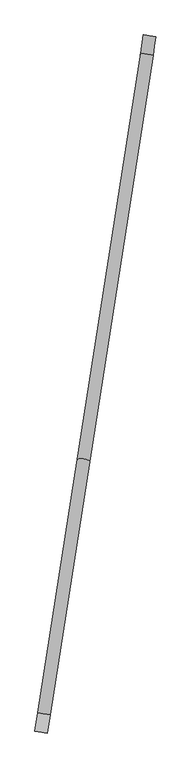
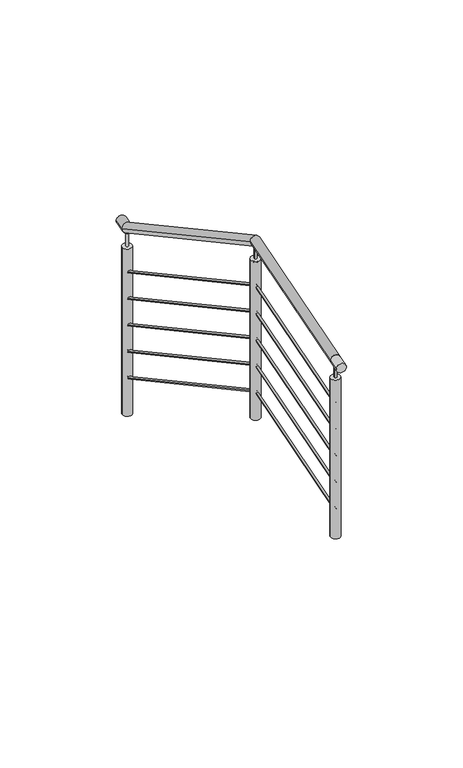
"""IFC4 building model written with IfcOpenShell, lengths in millimetres: railing geometry, Barandal acero inox - escalera."""

from ifc_helpers import new_model, si_unit, point, frame, frame_2d, origin, place, context, project, spatial, circle_curve, ellipse_curve, trimmed, segment, composite_curve, outline, extrude, source, transform, mapped, element, save
from ifc_brep_helpers import plane_surface, cylinder_surface, advanced_brep


def railing_caa17b47(model_context):
    return source(origin(), model_context, "Body", "SolidModel", [
        advanced_brep(
        [(-33315.3616615, -69036.3572511, 2260.5263158), (-33365.5555823, -69028.5335492, 2260.5263158), (-33206.9925709, -68011.2530626, 2260.5263158), (-33156.7986501, -68019.0767645, 2260.5263158), (-32901.9435111, -66384.0222992, 1254.4335573), (-32952.1374319, -66376.1985973, 1254.4335573)],
        [
            (0, 1, circle_curve(frame((-33340.4586219, -69032.4454002, 2260.5263158), z_axis=(-0.15400987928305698, -0.9880693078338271, 0.0), x_axis=(-0.9880693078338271, 0.15400987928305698, 0.0)), 25.4)),
            (1, 0, circle_curve(frame((-33340.4586219, -69032.4454002, 2260.5263158), z_axis=(-0.15400987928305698, -0.9880693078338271, 0.0), x_axis=(-0.9880693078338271, 0.15400987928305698, 0.0)), 25.4)),
            (2, 3, ellipse_curve(frame((-33181.8956105, -68015.1649136, 2260.5263158), z_axis=(-0.14830071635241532, -0.9514414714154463, 0.26975178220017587), x_axis=(0.0415444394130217, 0.2665334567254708, 0.9629298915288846)), 26.377829, 25.4)),
            (3, 0),
            (1, 2),
            (3, 2, ellipse_curve(frame((-33181.8956105, -68015.1649136, 2260.5263158), z_axis=(-0.14830071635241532, -0.9514414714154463, 0.26975178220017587), x_axis=(0.0415444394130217, 0.2665334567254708, 0.9629298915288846)), 26.377829, 25.4)),
            (4, 5, ellipse_curve(frame((-32927.0404715, -66380.1104482, 1254.4335573), z_axis=(0.15400987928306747, 0.9880693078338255, 0.0), x_axis=(0.0, 0.0, -1.0)), 29.7261002, 25.4)),
            (5, 4, ellipse_curve(frame((-32927.0404715, -66380.1104482, 1254.4335573), z_axis=(0.15400987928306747, 0.9880693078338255, 0.0), x_axis=(0.0, 0.0, -1.0)), 29.7261002, 25.4)),
            (4, 3),
            (2, 5),
        ],
        [
            plane_surface(frame((-33340.4586219, -69032.4454002, 2260.5263158), z_axis=(-0.15400987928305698, -0.9880693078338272, 0.0), x_axis=(0.9880693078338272, -0.15400987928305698, 0.0))),
            cylinder_surface(frame((-33181.8956105, -68015.1649136, 2260.5263158), z_axis=(0.15400987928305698, 0.9880693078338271, 0.0), x_axis=(-0.9880693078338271, 0.15400987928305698, 0.0)), 25.4),
            plane_surface(frame((-32927.0404715, -66380.1104482, 1254.4335573), z_axis=(0.15400987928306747, 0.9880693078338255, 0.0), x_axis=(0.9880693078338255, -0.15400987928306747, 0.0))),
            cylinder_surface(frame((-32927.0404715, -66380.1104482, 1254.4335573), z_axis=(0.13159650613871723, 0.8442735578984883, -0.5195041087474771), x_axis=(-0.9880693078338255, 0.1540098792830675, 0.0)), 25.4),
        ],
        [
            (0, [[1, 2]]),
            (1, [[3, 4, -2, 5]]),
            (1, [[6, -5, -1, -4]]),
            (2, [[7, 8]]),
            (3, [[-7, 9, -3, 10]]),
            (3, [[-8, -10, -6, -9]]),
        ],
    ),
        advanced_brep(
        [(-33334.1843818, -69033.4233629, 2010.5263158), (-33346.732862, -69031.4674374, 2010.5263158), (-33188.1698506, -68014.1869508, 2010.5263158), (-33175.6213704, -68016.1428763, 2010.5263158), (-32920.7662314, -66381.088411, 1004.4335573), (-32933.3147116, -66379.1324855, 1004.4335573)],
        [
            (0, 1, circle_curve(frame((-33340.4586219, -69032.4454002, 2010.5263158), z_axis=(-0.15400987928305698, -0.9880693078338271, 0.0), x_axis=(-0.9880693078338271, 0.15400987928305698, 0.0)), 6.35)),
            (1, 0, circle_curve(frame((-33340.4586219, -69032.4454002, 2010.5263158), z_axis=(-0.15400987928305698, -0.9880693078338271, 0.0), x_axis=(-0.9880693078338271, 0.15400987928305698, 0.0)), 6.35)),
            (2, 3, ellipse_curve(frame((-33181.8956105, -68015.1649136, 2010.5263158), z_axis=(-0.14830071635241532, -0.9514414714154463, 0.26975178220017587), x_axis=(0.0415444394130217, 0.2665334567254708, 0.9629298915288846)), 6.5944572, 6.35)),
            (3, 0),
            (1, 2),
            (3, 2, ellipse_curve(frame((-33181.8956105, -68015.1649136, 2010.5263158), z_axis=(-0.14830071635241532, -0.9514414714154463, 0.26975178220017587), x_axis=(0.0415444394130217, 0.2665334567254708, 0.9629298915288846)), 6.5944572, 6.35)),
            (4, 5, ellipse_curve(frame((-32927.0404715, -66380.1104482, 1004.4335573), z_axis=(0.15400987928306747, 0.9880693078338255, 0.0), x_axis=(0.0, 0.0, -1.0)), 7.4315251, 6.35)),
            (5, 4, ellipse_curve(frame((-32927.0404715, -66380.1104482, 1004.4335573), z_axis=(0.15400987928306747, 0.9880693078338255, 0.0), x_axis=(0.0, 0.0, -1.0)), 7.4315251, 6.35)),
            (4, 3),
            (2, 5),
        ],
        [
            plane_surface(frame((-33340.4586219, -69032.4454002, 2010.5263158), z_axis=(-0.15400987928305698, -0.9880693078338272, 0.0), x_axis=(0.9880693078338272, -0.15400987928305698, 0.0))),
            cylinder_surface(frame((-33181.8956105, -68015.1649136, 2010.5263158), z_axis=(0.15400987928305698, 0.9880693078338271, 0.0), x_axis=(-0.9880693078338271, 0.15400987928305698, 0.0)), 6.35),
            plane_surface(frame((-32927.0404715, -66380.1104482, 1004.4335573), z_axis=(0.15400987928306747, 0.9880693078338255, 0.0), x_axis=(0.9880693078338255, -0.15400987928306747, 0.0))),
            cylinder_surface(frame((-32927.0404715, -66380.1104482, 1004.4335573), z_axis=(0.13159650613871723, 0.8442735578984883, -0.5195041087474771), x_axis=(-0.9880693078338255, 0.1540098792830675, 0.0)), 6.35),
        ],
        [
            (0, [[1, 2]]),
            (1, [[3, 4, -2, 5]]),
            (1, [[6, -5, -1, -4]]),
            (2, [[7, 8]]),
            (3, [[-7, 9, -3, 10]]),
            (3, [[-8, -10, -6, -9]]),
        ],
    ),
        advanced_brep(
        [(-33334.1843818, -69033.4233629, 1860.5263158), (-33346.732862, -69031.4674374, 1860.5263158), (-33188.1698506, -68014.1869508, 1860.5263158), (-33175.6213704, -68016.1428763, 1860.5263158), (-32920.7662314, -66381.088411, 854.4335573), (-32933.3147116, -66379.1324855, 854.4335573)],
        [
            (0, 1, circle_curve(frame((-33340.4586219, -69032.4454002, 1860.5263158), z_axis=(-0.15400987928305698, -0.9880693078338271, 0.0), x_axis=(-0.9880693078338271, 0.15400987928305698, 0.0)), 6.35)),
            (1, 0, circle_curve(frame((-33340.4586219, -69032.4454002, 1860.5263158), z_axis=(-0.15400987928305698, -0.9880693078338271, 0.0), x_axis=(-0.9880693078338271, 0.15400987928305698, 0.0)), 6.35)),
            (2, 3, ellipse_curve(frame((-33181.8956105, -68015.1649136, 1860.5263158), z_axis=(-0.14830071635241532, -0.9514414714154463, 0.26975178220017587), x_axis=(0.0415444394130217, 0.2665334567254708, 0.9629298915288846)), 6.5944572, 6.35)),
            (3, 0),
            (1, 2),
            (3, 2, ellipse_curve(frame((-33181.8956105, -68015.1649136, 1860.5263158), z_axis=(-0.14830071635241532, -0.9514414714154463, 0.26975178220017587), x_axis=(0.0415444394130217, 0.2665334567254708, 0.9629298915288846)), 6.5944572, 6.35)),
            (4, 5, ellipse_curve(frame((-32927.0404715, -66380.1104482, 854.4335573), z_axis=(0.15400987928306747, 0.9880693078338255, 0.0), x_axis=(0.0, 0.0, -1.0)), 7.4315251, 6.35)),
            (5, 4, ellipse_curve(frame((-32927.0404715, -66380.1104482, 854.4335573), z_axis=(0.15400987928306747, 0.9880693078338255, 0.0), x_axis=(0.0, 0.0, -1.0)), 7.4315251, 6.35)),
            (4, 3),
            (2, 5),
        ],
        [
            plane_surface(frame((-33340.4586219, -69032.4454002, 1860.5263158), z_axis=(-0.15400987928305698, -0.9880693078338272, 0.0), x_axis=(0.9880693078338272, -0.15400987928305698, 0.0))),
            cylinder_surface(frame((-33181.8956105, -68015.1649136, 1860.5263158), z_axis=(0.15400987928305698, 0.9880693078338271, 0.0), x_axis=(-0.9880693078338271, 0.15400987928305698, 0.0)), 6.35),
            plane_surface(frame((-32927.0404715, -66380.1104482, 854.4335573), z_axis=(0.15400987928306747, 0.9880693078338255, 0.0), x_axis=(0.9880693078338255, -0.15400987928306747, 0.0))),
            cylinder_surface(frame((-32927.0404715, -66380.1104482, 854.4335573), z_axis=(0.13159650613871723, 0.8442735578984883, -0.5195041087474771), x_axis=(-0.9880693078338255, 0.1540098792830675, 0.0)), 6.35),
        ],
        [
            (0, [[1, 2]]),
            (1, [[3, 4, -2, 5]]),
            (1, [[6, -5, -1, -4]]),
            (2, [[7, 8]]),
            (3, [[-7, 9, -3, 10]]),
            (3, [[-8, -10, -6, -9]]),
        ],
    ),
        advanced_brep(
        [(-33334.1843818, -69033.4233629, 1710.5263158), (-33346.732862, -69031.4674374, 1710.5263158), (-33188.1698506, -68014.1869508, 1710.5263158), (-33175.6213704, -68016.1428763, 1710.5263158), (-32920.7662314, -66381.088411, 704.4335573), (-32933.3147116, -66379.1324855, 704.4335573)],
        [
            (0, 1, circle_curve(frame((-33340.4586219, -69032.4454002, 1710.5263158), z_axis=(-0.154009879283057, -0.9880693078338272, 0.0), x_axis=(-0.9880693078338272, 0.154009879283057, 0.0)), 6.35)),
            (1, 0, circle_curve(frame((-33340.4586219, -69032.4454002, 1710.5263158), z_axis=(-0.154009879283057, -0.9880693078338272, 0.0), x_axis=(-0.9880693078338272, 0.154009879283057, 0.0)), 6.35)),
            (2, 3, ellipse_curve(frame((-33181.8956105, -68015.1649136, 1710.5263158), z_axis=(-0.14830071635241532, -0.9514414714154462, 0.26975178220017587), x_axis=(0.041544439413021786, 0.26653345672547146, 0.9629298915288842)), 6.5944572, 6.35)),
            (3, 0),
            (1, 2),
            (3, 2, ellipse_curve(frame((-33181.8956105, -68015.1649136, 1710.5263158), z_axis=(-0.14830071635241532, -0.9514414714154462, 0.26975178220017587), x_axis=(0.041544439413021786, 0.26653345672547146, 0.9629298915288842)), 6.5944572, 6.35)),
            (4, 5, ellipse_curve(frame((-32927.0404715, -66380.1104482, 704.4335573), z_axis=(0.1540098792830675, 0.9880693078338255, 0.0), x_axis=(0.0, 0.0, -1.0)), 7.4315251, 6.35)),
            (5, 4, ellipse_curve(frame((-32927.0404715, -66380.1104482, 704.4335573), z_axis=(0.1540098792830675, 0.9880693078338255, 0.0), x_axis=(0.0, 0.0, -1.0)), 7.4315251, 6.35)),
            (4, 3),
            (2, 5),
        ],
        [
            plane_surface(frame((-33340.4586219, -69032.4454002, 1710.5263158), z_axis=(-0.15400987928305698, -0.9880693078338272, 0.0), x_axis=(0.9880693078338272, -0.15400987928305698, 0.0))),
            cylinder_surface(frame((-33181.8956105, -68015.1649136, 1710.5263158), z_axis=(0.154009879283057, 0.9880693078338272, 0.0), x_axis=(-0.9880693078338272, 0.154009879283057, 0.0)), 6.35),
            plane_surface(frame((-32927.0404715, -66380.1104482, 704.4335573), z_axis=(0.1540098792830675, 0.9880693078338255, 0.0), x_axis=(0.9880693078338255, -0.1540098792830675, 0.0))),
            cylinder_surface(frame((-32927.0404715, -66380.1104482, 704.4335573), z_axis=(0.13159650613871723, 0.8442735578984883, -0.5195041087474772), x_axis=(-0.9880693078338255, 0.1540098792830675, 0.0)), 6.35),
        ],
        [
            (0, [[1, 2]]),
            (1, [[3, 4, -2, 5]]),
            (1, [[6, -5, -1, -4]]),
            (2, [[7, 8]]),
            (3, [[-7, 9, -3, 10]]),
            (3, [[-8, -10, -6, -9]]),
        ],
    ),
        advanced_brep(
        [(-33334.1843818, -69033.4233629, 1560.5263158), (-33346.732862, -69031.4674374, 1560.5263158), (-33188.1698506, -68014.1869508, 1560.5263158), (-33175.6213704, -68016.1428763, 1560.5263158), (-32920.7662314, -66381.088411, 554.4335573), (-32933.3147116, -66379.1324855, 554.4335573)],
        [
            (0, 1, circle_curve(frame((-33340.4586219, -69032.4454002, 1560.5263158), z_axis=(-0.154009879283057, -0.9880693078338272, 0.0), x_axis=(-0.9880693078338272, 0.154009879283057, 0.0)), 6.35)),
            (1, 0, circle_curve(frame((-33340.4586219, -69032.4454002, 1560.5263158), z_axis=(-0.154009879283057, -0.9880693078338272, 0.0), x_axis=(-0.9880693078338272, 0.154009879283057, 0.0)), 6.35)),
            (2, 3, ellipse_curve(frame((-33181.8956105, -68015.1649136, 1560.5263158), z_axis=(-0.14830071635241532, -0.9514414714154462, 0.26975178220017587), x_axis=(0.041544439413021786, 0.26653345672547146, 0.9629298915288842)), 6.5944572, 6.35)),
            (3, 0),
            (1, 2),
            (3, 2, ellipse_curve(frame((-33181.8956105, -68015.1649136, 1560.5263158), z_axis=(-0.14830071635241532, -0.9514414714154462, 0.26975178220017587), x_axis=(0.041544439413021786, 0.26653345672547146, 0.9629298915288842)), 6.5944572, 6.35)),
            (4, 5, ellipse_curve(frame((-32927.0404715, -66380.1104482, 554.4335573), z_axis=(0.1540098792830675, 0.9880693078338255, 0.0), x_axis=(0.0, 0.0, -1.0)), 7.4315251, 6.35)),
            (5, 4, ellipse_curve(frame((-32927.0404715, -66380.1104482, 554.4335573), z_axis=(0.1540098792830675, 0.9880693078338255, 0.0), x_axis=(0.0, 0.0, -1.0)), 7.4315251, 6.35)),
            (4, 3),
            (2, 5),
        ],
        [
            plane_surface(frame((-33340.4586219, -69032.4454002, 1560.5263158), z_axis=(-0.15400987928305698, -0.9880693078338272, 0.0), x_axis=(0.9880693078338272, -0.15400987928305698, 0.0))),
            cylinder_surface(frame((-33181.8956105, -68015.1649136, 1560.5263158), z_axis=(0.154009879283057, 0.9880693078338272, 0.0), x_axis=(-0.9880693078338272, 0.154009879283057, 0.0)), 6.35),
            plane_surface(frame((-32927.0404715, -66380.1104482, 554.4335573), z_axis=(0.1540098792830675, 0.9880693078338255, 0.0), x_axis=(0.9880693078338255, -0.1540098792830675, 0.0))),
            cylinder_surface(frame((-32927.0404715, -66380.1104482, 554.4335573), z_axis=(0.13159650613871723, 0.8442735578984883, -0.5195041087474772), x_axis=(-0.9880693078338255, 0.1540098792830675, 0.0)), 6.35),
        ],
        [
            (0, [[1, 2]]),
            (1, [[3, 4, -2, 5]]),
            (1, [[6, -5, -1, -4]]),
            (2, [[7, 8]]),
            (3, [[-7, 9, -3, 10]]),
            (3, [[-8, -10, -6, -9]]),
        ],
    ),
        advanced_brep(
        [(-33334.1843818, -69033.4233629, 1410.5263158), (-33346.732862, -69031.4674374, 1410.5263158), (-33188.1698506, -68014.1869508, 1410.5263158), (-33175.6213704, -68016.1428763, 1410.5263158), (-32920.7662314, -66381.088411, 404.4335573), (-32933.3147116, -66379.1324855, 404.4335573)],
        [
            (0, 1, circle_curve(frame((-33340.4586219, -69032.4454002, 1410.5263158), z_axis=(-0.15400987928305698, -0.9880693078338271, 0.0), x_axis=(-0.9880693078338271, 0.15400987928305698, 0.0)), 6.35)),
            (1, 0, circle_curve(frame((-33340.4586219, -69032.4454002, 1410.5263158), z_axis=(-0.15400987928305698, -0.9880693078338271, 0.0), x_axis=(-0.9880693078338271, 0.15400987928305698, 0.0)), 6.35)),
            (2, 3, ellipse_curve(frame((-33181.8956105, -68015.1649136, 1410.5263158), z_axis=(-0.14830071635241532, -0.9514414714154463, 0.26975178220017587), x_axis=(0.0415444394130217, 0.2665334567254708, 0.9629298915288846)), 6.5944572, 6.35)),
            (3, 0),
            (1, 2),
            (3, 2, ellipse_curve(frame((-33181.8956105, -68015.1649136, 1410.5263158), z_axis=(-0.14830071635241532, -0.9514414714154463, 0.26975178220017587), x_axis=(0.0415444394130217, 0.2665334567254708, 0.9629298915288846)), 6.5944572, 6.35)),
            (4, 5, ellipse_curve(frame((-32927.0404715, -66380.1104482, 404.4335573), z_axis=(0.15400987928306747, 0.9880693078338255, 0.0), x_axis=(0.0, 0.0, -1.0)), 7.4315251, 6.35)),
            (5, 4, ellipse_curve(frame((-32927.0404715, -66380.1104482, 404.4335573), z_axis=(0.15400987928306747, 0.9880693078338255, 0.0), x_axis=(0.0, 0.0, -1.0)), 7.4315251, 6.35)),
            (4, 3),
            (2, 5),
        ],
        [
            plane_surface(frame((-33340.4586219, -69032.4454002, 1410.5263158), z_axis=(-0.15400987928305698, -0.9880693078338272, 0.0), x_axis=(0.9880693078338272, -0.15400987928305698, 0.0))),
            cylinder_surface(frame((-33181.8956105, -68015.1649136, 1410.5263158), z_axis=(0.15400987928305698, 0.9880693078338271, 0.0), x_axis=(-0.9880693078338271, 0.15400987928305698, 0.0)), 6.35),
            plane_surface(frame((-32927.0404715, -66380.1104482, 404.4335573), z_axis=(0.15400987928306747, 0.9880693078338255, 0.0), x_axis=(0.9880693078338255, -0.15400987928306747, 0.0))),
            cylinder_surface(frame((-32927.0404715, -66380.1104482, 404.4335573), z_axis=(0.13159650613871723, 0.8442735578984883, -0.5195041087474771), x_axis=(-0.9880693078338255, 0.1540098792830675, 0.0)), 6.35),
        ],
        [
            (0, [[1, 2]]),
            (1, [[3, 4, -2, 5]]),
            (1, [[6, -5, -1, -4]]),
            (2, [[7, 8]]),
            (3, [[-7, 9, -3, 10]]),
            (3, [[-8, -10, -6, -9]]),
        ],
    ),
        extrude(outline(composite_curve([segment(trimmed(circle_curve(frame_2d((-33181.8956105, -68015.1649136)), 6.35), [point((-33188.1698506, -68014.1869508))], [point((-33175.6213704, -68016.1428763))], False, "CARTESIAN"), True, "CONTINUOUS"), segment(trimmed(circle_curve(frame_2d((-33181.8956105, -68015.1649136)), 6.35), [point((-33175.6213704, -68016.1428763))], [point((-33188.1698506, -68014.1869508))], False, "CARTESIAN"), True, "CONTINUOUS")], self_intersect=False)), frame((0.0, 0.0, 2160.1263158), z_axis=(0.0, 0.0, 1.0), x_axis=(1.0, 0.0, 0.0)), (0.0, 0.0, 1.0), 75.0),
        extrude(outline(composite_curve([segment(trimmed(circle_curve(frame_2d((-33181.8956105, -68015.1649136)), 25.4), [point((-33206.9925709, -68011.2530626))], [point((-33156.7986501, -68019.0767645))], False, "CARTESIAN"), True, "CONTINUOUS"), segment(trimmed(circle_curve(frame_2d((-33181.8956105, -68015.1649136)), 25.4), [point((-33156.7986501, -68019.0767645))], [point((-33206.9925709, -68011.2530626))], False, "CARTESIAN"), True, "CONTINUOUS")], self_intersect=False)), frame((0.0, 0.0, 1260.5263158), z_axis=(0.0, 0.0, 1.0), x_axis=(1.0, 0.0, 0.0)), (0.0, 0.0, 1.0), 899.6),
        extrude(outline(composite_curve([segment(trimmed(circle_curve(frame_2d((-33181.8956105, -68015.1649136)), 6.35), [point((-33188.1698506, -68014.1869508))], [point((-33175.6213704, -68016.1428763))], False, "CARTESIAN"), True, "CONTINUOUS"), segment(trimmed(circle_curve(frame_2d((-33181.8956105, -68015.1649136)), 6.35), [point((-33175.6213704, -68016.1428763))], [point((-33188.1698506, -68014.1869508))], False, "CARTESIAN"), True, "CONTINUOUS")], self_intersect=False)), frame((0.0, 0.0, 2155.8002155), z_axis=(0.0, 0.0, 1.0), x_axis=(1.0, 0.0, 0.0)), (0.0, 0.0, 1.0), 75.0),
        extrude(outline(composite_curve([segment(trimmed(circle_curve(frame_2d((-33181.8956105, -68015.1649136)), 25.4), [point((-33206.9925709, -68011.2530626))], [point((-33156.7986501, -68019.0767645))], False, "CARTESIAN"), True, "CONTINUOUS"), segment(trimmed(circle_curve(frame_2d((-33181.8956105, -68015.1649136)), 25.4), [point((-33156.7986501, -68019.0767645))], [point((-33206.9925709, -68011.2530626))], False, "CARTESIAN"), True, "CONTINUOUS")], self_intersect=False)), frame((0.0, 0.0, 1260.5263158), z_axis=(0.0, 0.0, 1.0), x_axis=(1.0, 0.0, 0.0)), (0.0, 0.0, 1.0), 895.2738998),
        extrude(outline(composite_curve([segment(trimmed(circle_curve(frame_2d((0.0, -25.4)), 25.4), [point((0.0, -50.8))], [point((0.0, 0.0))], False, "CARTESIAN"), True, "CONTINUOUS"), segment(trimmed(circle_curve(frame_2d((0.0, -25.4)), 25.4), [point((0.0, 0.0))], [point((0.0, -50.8))], False, "CARTESIAN"), True, "CONTINUOUS")], self_intersect=False)), frame((-33326.9124025, -69110.4624492, 2260.5263158), z_axis=(0.15400987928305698, 0.9880693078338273, 0.0), x_axis=(0.0, 0.0, 1.0)), (0.0, 0.0, 1.0), 75.0),
        extrude(outline(composite_curve([segment(trimmed(circle_curve(frame_2d((-33340.4586219, -69032.4454002)), 6.35), [point((-33346.732862, -69031.4674374))], [point((-33334.1843818, -69033.4233629))], False, "CARTESIAN"), True, "CONTINUOUS"), segment(trimmed(circle_curve(frame_2d((-33340.4586219, -69032.4454002)), 6.35), [point((-33334.1843818, -69033.4233629))], [point((-33346.732862, -69031.4674374))], False, "CARTESIAN"), True, "CONTINUOUS")], self_intersect=False)), frame((0.0, 0.0, 2160.1263158), z_axis=(0.0, 0.0, 1.0), x_axis=(1.0, 0.0, 0.0)), (0.0, 0.0, 1.0), 75.0),
        extrude(outline(composite_curve([segment(trimmed(circle_curve(frame_2d((-33340.4586219, -69032.4454002)), 25.4), [point((-33365.5555823, -69028.5335492))], [point((-33315.3616615, -69036.3572511))], False, "CARTESIAN"), True, "CONTINUOUS"), segment(trimmed(circle_curve(frame_2d((-33340.4586219, -69032.4454002)), 25.4), [point((-33315.3616615, -69036.3572511))], [point((-33365.5555823, -69028.5335492))], False, "CARTESIAN"), True, "CONTINUOUS")], self_intersect=False)), frame((0.0, 0.0, 1260.5263158), z_axis=(0.0, 0.0, 1.0), x_axis=(1.0, 0.0, 0.0)), (0.0, 0.0, 1.0), 899.6),
        extrude(outline(composite_curve([segment(trimmed(circle_curve(frame_2d((0.0, -25.4)), 25.4), [point((0.0, -50.8))], [point((0.0, 0.0))], False, "CARTESIAN"), True, "CONTINUOUS"), segment(trimmed(circle_curve(frame_2d((0.0, -25.4)), 25.4), [point((0.0, 0.0))], [point((0.0, -50.8))], False, "CARTESIAN"), True, "CONTINUOUS")], self_intersect=False)), frame((-32901.9435111, -66384.0222992, 1250.1074571), z_axis=(0.1540098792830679, 0.9880693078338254, 0.0), x_axis=(0.0, 0.0, 1.0)), (0.0, 0.0, 1.0), 75.0),
        extrude(outline(composite_curve([segment(trimmed(circle_curve(frame_2d((-32927.0404715, -66380.1104482)), 6.35), [point((-32933.3147116, -66379.1324855))], [point((-32920.7662314, -66381.088411))], False, "CARTESIAN"), True, "CONTINUOUS"), segment(trimmed(circle_curve(frame_2d((-32927.0404715, -66380.1104482)), 6.35), [point((-32920.7662314, -66381.088411))], [point((-32933.3147116, -66379.1324855))], False, "CARTESIAN"), True, "CONTINUOUS")], self_intersect=False)), frame((0.0, 0.0, 1149.7074571), z_axis=(0.0, 0.0, 1.0), x_axis=(1.0, 0.0, 0.0)), (0.0, 0.0, 1.0), 75.0),
        extrude(outline(composite_curve([segment(trimmed(circle_curve(frame_2d((-32927.0404715, -66380.1104482)), 25.4), [point((-32952.1374319, -66376.1985973))], [point((-32901.9435111, -66384.0222992))], False, "CARTESIAN"), True, "CONTINUOUS"), segment(trimmed(circle_curve(frame_2d((-32927.0404715, -66380.1104482)), 25.4), [point((-32901.9435111, -66384.0222992))], [point((-32952.1374319, -66376.1985973))], False, "CARTESIAN"), True, "CONTINUOUS")], self_intersect=False)), frame((0.0, 0.0, 202.6315789), z_axis=(0.0, 0.0, 1.0), x_axis=(1.0, 0.0, 0.0)), (0.0, 0.0, 1.0), 947.0758781),
    ])


if __name__ == "__main__":
    model = new_model("IFC4")
    model_context = context("Model", 3, world=origin())
    ifc_project = project(units=[si_unit("LENGTHUNIT", "METRE", prefix="MILLI")], contexts=[model_context])
    site = spatial("IfcSite", under=ifc_project)
    building = spatial("IfcBuilding", under=site)
    placement = place(None, origin())
    railing_shape = railing_caa17b47(model_context)
    element("IfcRailing", 1, ObjectType="Barandal acero inox - escalera", at=placement, inside=building, context=model_context, shape_type="MappedRepresentation", body=[
        mapped(railing_shape, transform((0.0, 0.0, 0.0), x_axis=(1.0, 0.0, 0.0), y_axis=(0.0, 1.0, 0.0), z_axis=(0.0, 0.0, 1.0))),
    ])
    save(model, "model.ifc")
